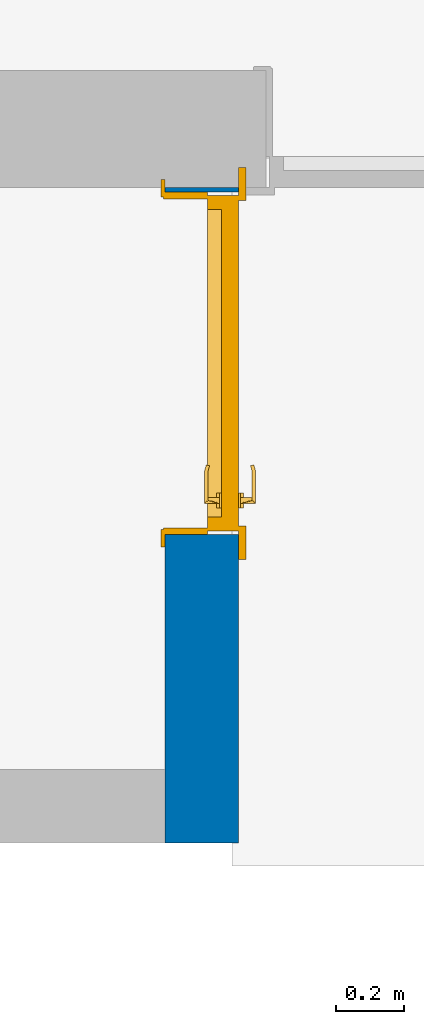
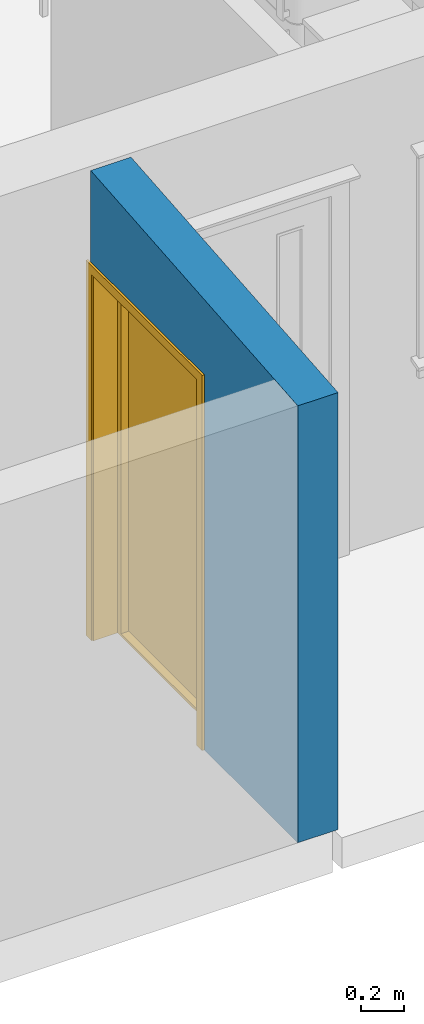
# One storey, part 19 of 65: 1 door, 1 wall, 1 opening.
"""IFC2X3 building model written with IfcOpenShell, lengths in millimetres."""

from ifc_helpers import new_model, entity, si_unit, converted_unit, direction, frame, frame_2d, origin, place, context, subcontext, project, spatial, polyline, rectangle, extrude, clip, bounded_halfspace, faceted_brep, source, transform, mapped, material, material_list, layer, layer_set, layer_usage, type_object, type_shapes, element, fill, save


model = new_model("IFC2X3")

# Units and contexts
model_context = context("Model", 3, precision=0.01, world=origin(), true_north=direction((0.0, 1.0)))
body_context = subcontext(model_context, "Body", "Model", "MODEL_VIEW")
ifc_project = project(units=[si_unit("LENGTHUNIT", "METRE", prefix="MILLI"), si_unit("AREAUNIT", "SQUARE_METRE"), si_unit("VOLUMEUNIT", "CUBIC_METRE"), converted_unit("PLANEANGLEUNIT", "DEGREE", entity("IfcPlaneAngleMeasure", 0.017453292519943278), si_unit("PLANEANGLEUNIT", "RADIAN"), dimensions=[0, 0, 0, 0, 0, 0, 0])], contexts=[model_context])

# Site, building, storey
site_placement = place(None, origin())
site = spatial("IfcSite", under=ifc_project, at=site_placement, Name="Default", CompositionType="ELEMENT")
building_placement = place(site_placement, origin())
building = spatial("IfcBuilding", under=site, at=building_placement, CompositionType="ELEMENT")
storey_placement = place(building_placement, origin())
storey = spatial("IfcBuildingStorey", under=building, at=storey_placement, Name="Et. 1", CompositionType="ELEMENT", Elevation=0.0)

# Wall, opening, door
ifc_material_1 = material(Name="Vegg - Stående Kledning_smal - HVIT")
ifc_layer_1 = layer(ifc_material_1, 19.0)
ifc_material_2 = material(Name="Vegg - Stender - Isolert")
ifc_layer_2 = layer(ifc_material_2, 198.0)
ifc_layer_set = layer_set([ifc_layer_1, ifc_layer_2], Name="Basic Wall:23-Kv(sm)TIG-19_Bod")
ifc_layer_usage = layer_usage(ifc_layer_set, "AXIS2", "NEGATIVE", 108.5)
wall_type = type_object("IfcWallType", Name="Basic Wall:23-Kv(sm)TIG-19_Bod", PredefinedType="STANDARD", material=ifc_layer_set)
wall_placement = place(storey_placement, frame((30699.009586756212, 8408.180957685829, 0.0), z_axis=(0.0, 0.0, 1.0), x_axis=(0.0, -1.0, 0.0)))
wall = element("IfcWallStandardCase", 1, at=wall_placement, inside=storey, type_object=wall_type, material=ifc_layer_usage, Name="Basic Wall:23-Kv(sm)TIG-19_Bod", context=body_context, shape_type="Clipping", body=[
    clip(extrude(rectangle(XDim=1932.0000000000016, YDim=216.9999999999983, at=frame_2d((966.0000000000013, 2.0463630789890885e-12), x_axis=(1.0, 0.0))), origin(), (0.0, 0.0, 1.0), 2657.639611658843), bounded_halfspace(frame((0.0, -108.4999999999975, 2657.6396116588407), z_axis=(0.08715574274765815, 0.0, 0.9961946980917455), x_axis=(0.0, 1.0, 0.0)), False, frame((0.0, -108.4999999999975, 2657.6396116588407)), polyline([(0.0, 0.0), (1715.0, 0.0), (1932.0, 0.0), (1932.0, 217.0), (0.0, 217.0), (0.0, 0.0)]))),
])
opening_placement = place(wall_placement, frame((13.0, -108.50000000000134, 0.0)))
opening = element("IfcOpeningElement", 2, at=opening_placement, cuts=wall, Name="YD Hel omramming:10x21M:1", ObjectType="Opening", context=body_context, shape_type="SweptSolid", body=[
    extrude(rectangle(XDim=1010.000000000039, YDim=2100.0000000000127, at=frame_2d((1050.0000000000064, 505.0000000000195), x_axis=(0.0, -1.0))), frame((0.0, 0.0, 0.0), z_axis=(0.0, 1.0, 0.0), x_axis=(0.0, 0.0, 1.0)), (0.0, 0.0, 1.0), 217.0),
])
ifc_material_3 = material(Name="Karm")
ifc_material_4 = material(Name="Dør - Håndtak")
ifc_material_5 = material(Name="Dør - Dørblad")
ifc_material_6 = material(Name="Dør - Terskel - Eik")
ifc_material_list = material_list([ifc_material_3, ifc_material_4, ifc_material_5, ifc_material_6])
door_style = type_object("IfcDoorStyle", Name="YD Hel omramming:10x21M", ConstructionType="NOTDEFINED", OperationType="SINGLE_SWING_LEFT", ParameterTakesPrecedence=False, Sizeable=False, material=ifc_material_list)
shared_shape = source(origin(), body_context, "Body", "Brep", [
    faceted_brep([(1113.0, 284.5268751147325, 2160.8011105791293), (1113.0, 289.44443697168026, 2179.153701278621), (1113.0, 217.0, 2198.56512966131), (1113.0, 217.0, 2178.894882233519), (-103.0, 284.5268751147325, 2160.8011105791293), (-103.0, 217.0, 2178.894882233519), (-103.0, 217.0, 2198.56512966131), (-103.0, 289.44443697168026, 2179.153701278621)], [[[0, 1, 2, 3]], [[4, 5, 6, 7]], [[1, 0, 4, 7]], [[2, 1, 7, 6]], [[3, 2, 6, 5]], [[0, 3, 5, 4]]]),
    faceted_brep([(25.0, 239.0, 2173.0), (985.0, 239.0, 2173.0), (985.0, 239.0, 2075.0), (25.0, 239.0, 2075.0), (25.0, 217.0, 2173.0), (25.0, 217.0, 2075.0), (985.0, 217.0, 2075.0), (985.0, 217.0, 2173.0)], [[[0, 1, 2, 3]], [[4, 5, 6, 7]], [[1, 0, 4, 7]], [[2, 1, 7, 6]], [[3, 2, 6, 5]], [[0, 3, 5, 4]]]),
    faceted_brep([(-73.0, 239.0, 2179.153701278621), (25.0, 239.0, 2179.153701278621), (25.0, 239.0, 0.0), (-73.0, 239.0, 0.0), (-73.0, 217.0, 2179.153701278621), (25.0, 217.0, 2179.153701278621), (25.0, 217.0, 0.0), (-73.0, 217.0, 0.0)], [[[0, 1, 2, 3]], [[1, 0, 4, 5]], [[2, 1, 5, 6]], [[3, 2, 6, 7]], [[0, 3, 7, 4]], [[4, 7, 6, 5]]]),
    faceted_brep([(985.0, 217.0, 2179.153701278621), (985.0, 217.0, 0.0), (1083.0, 217.0, 0.0), (1083.0, 217.0, 2179.153701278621), (1083.0, 239.0, 2179.153701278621), (985.0, 239.0, 2179.153701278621), (1083.0, 239.0, 0.0), (985.0, 239.0, 0.0)], [[[0, 1, 2, 3]], [[4, 5, 0, 3]], [[6, 4, 3, 2]], [[7, 6, 2, 1]], [[5, 7, 1, 0]], [[5, 4, 6, 7]]]),
    faceted_brep([(910.0, 117.0, 1061.0), (822.4876577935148, 117.0, 1061.0), (804.4308821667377, 121.8382984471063, 1061.0), (807.019072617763, 131.49755670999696, 1061.0), (823.8041827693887, 127.0, 1061.0), (910.0, 127.0, 1061.0), (907.6706285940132, 127.0, 1061.306667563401), (823.8041827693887, 127.0, 1079.0), (910.0, 127.0, 1079.0), (907.6706285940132, 127.0, 1078.6933324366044), (905.499999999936, 127.0, 1077.7942286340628), (903.636038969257, 127.0, 1076.3639610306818), (902.205771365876, 127.0, 1074.500000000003), (901.3066675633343, 127.0, 1072.3293714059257), (901.0, 127.0, 1070.0), (901.3066675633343, 127.0, 1067.6706285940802), (902.205771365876, 127.0, 1065.5000000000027), (903.636038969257, 127.0, 1063.6360389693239), (905.499999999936, 127.0, 1062.2057713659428), (910.0, 117.0, 1079.0), (807.019072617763, 131.49755670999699, 1079.0), (804.4308821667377, 121.83829844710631, 1079.0), (822.4876577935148, 117.0, 1079.0), (919.0, 117.0, 1070.0), (918.7739335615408, 117.0, 1072.0045173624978), (918.1082066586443, 117.0, 1073.9060190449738), (917.0361879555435, 117.0, 1075.6117785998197), (915.6117785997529, 117.0, 1077.0361879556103), (913.9060190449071, 117.0, 1078.1082066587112), (912.0038376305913, 117.0, 1078.7740888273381), (912.0038376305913, 117.0, 1061.2259111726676), (913.9060190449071, 117.0, 1061.8917933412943), (915.6117785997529, 117.0, 1062.9638120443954), (917.0361879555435, 117.0, 1064.3882214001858), (918.1082066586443, 117.0, 1066.0939809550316), (918.7739335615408, 117.0, 1067.9954826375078), (918.6933324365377, 161.0, 1072.3293714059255), (919.0, 161.0, 1070.0), (917.7942286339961, 161.0, 1074.5000000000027), (916.3639610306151, 161.0, 1076.3639610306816), (914.4999999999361, 161.0, 1077.7942286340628), (912.3293714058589, 161.0, 1078.6933324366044), (907.6706285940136, 161.0, 1078.6933324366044), (910.0, 161.0, 1079.0), (905.4999999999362, 161.0, 1077.7942286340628), (903.6360389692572, 161.0, 1076.3639610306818), (902.2057713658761, 161.0, 1074.500000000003), (901.3066675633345, 161.0, 1072.3293714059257), (901.0, 161.0, 1070.0), (901.3066675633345, 161.0, 1067.67062859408), (902.2057713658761, 161.0, 1065.5000000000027), (903.6360389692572, 161.0, 1063.6360389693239), (905.4999999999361, 161.0, 1062.2057713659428), (907.6706285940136, 161.0, 1061.306667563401), (910.0, 161.0, 1061.0), (912.3293714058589, 161.0, 1061.306667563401), (914.4999999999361, 161.0, 1062.2057713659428), (916.363961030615, 161.0, 1063.6360389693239), (918.6933324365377, 161.0, 1067.6706285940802), (917.7942286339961, 161.0, 1065.500000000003), (899.0, 161.0, 1089.0525588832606), (894.443650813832, 161.0, 1085.556349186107), (904.3059810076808, 161.0, 1091.2503681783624), (910.0, 161.0, 1092.0), (915.6940189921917, 161.0, 1091.2503681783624), (921.0, 161.0, 1089.0525588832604), (925.5563491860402, 161.0, 1085.556349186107), (929.0525588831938, 161.0, 1081.0), (931.2503681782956, 161.0, 1075.6940189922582), (932.0, 161.0, 1070.0), (931.2503681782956, 161.0, 1064.3059810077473), (929.0525588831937, 161.0, 1059.0), (925.55634918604, 161.0, 1054.4436508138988), (921.0, 161.0, 1050.947441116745), (915.6940189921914, 161.0, 1048.7496318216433), (910.0, 161.0, 1048.0), (904.3059810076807, 161.0, 1048.7496318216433), (899.0, 161.0, 1050.9474411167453), (894.443650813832, 161.0, 1054.4436508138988), (890.9474411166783, 161.0, 1059.0), (888.7496318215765, 161.0, 1064.3059810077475), (888.0, 161.0, 1070.0), (888.7496318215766, 161.0, 1075.6940189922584), (890.9474411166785, 161.0, 1081.0), (904.3059810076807, 167.0, 1048.7496318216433), (899.0, 167.0, 1050.9474411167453), (894.443650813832, 167.0, 1054.4436508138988), (890.9474411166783, 167.0, 1059.0), (888.7496318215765, 167.0, 1064.3059810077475), (888.0, 167.0, 1070.0), (888.7496318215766, 167.0, 1075.6940189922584), (890.9474411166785, 167.0, 1081.0), (894.443650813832, 167.0, 1085.556349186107), (899.0, 167.0, 1089.0525588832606), (904.3059810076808, 167.0, 1091.2503681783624), (910.0, 167.0, 1092.0), (915.6940189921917, 167.0, 1091.2503681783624), (921.0, 167.0, 1089.0525588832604), (925.5563491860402, 167.0, 1085.556349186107), (929.0525588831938, 167.0, 1081.0), (931.2503681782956, 167.0, 1075.6940189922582), (932.0, 167.0, 1070.0), (931.2503681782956, 167.0, 1064.3059810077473), (929.0525588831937, 167.0, 1059.0), (925.55634918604, 167.0, 1054.4436508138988), (921.0, 167.0, 1050.947441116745), (915.6940189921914, 167.0, 1048.7496318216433), (910.0, 167.0, 1048.0)], [[[0, 1, 2, 3, 4, 5]], [[6, 5, 4, 7, 8, 9, 10, 11, 12, 13, 14, 15, 16, 17, 18]], [[19, 8, 7, 20, 21, 22]], [[23, 24, 25, 26, 27, 28, 29, 19, 22, 1, 0, 30, 31, 32, 33, 34, 35]], [[3, 2, 21, 20]], [[7, 4, 3, 20]], [[1, 22, 21, 2]], [[36, 24, 37]], [[36, 8, 25]], [[38, 39, 8]], [[40, 8, 39]], [[40, 41, 8]], [[38, 8, 36]], [[8, 19, 29]], [[36, 25, 24]], [[24, 23, 37]], [[8, 28, 27]], [[27, 26, 8]], [[8, 26, 25]], [[8, 29, 28]], [[42, 9, 8, 43]], [[44, 10, 9, 42]], [[12, 11, 45, 46]], [[46, 47, 13, 12]], [[44, 45, 11, 10]], [[48, 14, 13, 47]], [[43, 8, 41]], [[49, 15, 14, 48]], [[50, 16, 15, 49]], [[18, 17, 51, 52]], [[52, 53, 6, 18]], [[5, 6, 53, 54]], [[50, 51, 17, 16]], [[5, 30, 0]], [[55, 56, 5]], [[56, 57, 5]], [[58, 5, 59]], [[58, 34, 5]], [[5, 57, 59]], [[37, 35, 58]], [[31, 30, 5]], [[32, 31, 5]], [[34, 33, 5]], [[33, 32, 5]], [[58, 35, 34]], [[37, 23, 35]], [[55, 5, 54]], [[44, 42, 60]], [[61, 44, 60]], [[44, 61, 45]], [[42, 62, 60]], [[62, 42, 43]], [[62, 43, 63]], [[41, 63, 43]], [[63, 41, 64]], [[41, 40, 64]], [[65, 64, 40]], [[39, 65, 40]], [[65, 39, 66]], [[38, 66, 39]], [[67, 66, 38]], [[36, 67, 38]], [[68, 67, 36]], [[68, 36, 37]], [[68, 37, 69]], [[69, 37, 58]], [[69, 58, 70]], [[70, 58, 59]], [[70, 59, 71]], [[72, 71, 59]], [[72, 59, 57]], [[57, 73, 72]], [[57, 56, 73]], [[74, 73, 56]], [[55, 74, 56]], [[55, 75, 74]], [[75, 55, 54]], [[54, 76, 75]], [[53, 76, 54]], [[76, 53, 77]], [[52, 77, 53]], [[78, 77, 52]], [[78, 52, 51]], [[78, 51, 79]], [[79, 51, 50]], [[79, 50, 80]], [[49, 80, 50]], [[81, 80, 49]], [[49, 48, 81]], [[48, 82, 81]], [[82, 48, 47]], [[82, 47, 83]], [[47, 46, 83]], [[45, 83, 46]], [[61, 83, 45]], [[84, 85, 86, 87, 88, 89, 90, 91, 92, 93, 94, 95, 96, 97, 98, 99, 100, 101, 102, 103, 104, 105, 106, 107]], [[100, 68, 69, 101]], [[99, 67, 68, 100]], [[65, 66, 98, 97]], [[99, 98, 66, 67]], [[64, 65, 97, 96]], [[63, 64, 96, 95]], [[94, 62, 63, 95]], [[93, 60, 62, 94]], [[83, 61, 92, 91]], [[93, 92, 61, 60]], [[82, 83, 91, 90]], [[81, 82, 90, 89]], [[88, 80, 81, 89]], [[87, 79, 80, 88]], [[77, 78, 86, 85]], [[87, 86, 78, 79]], [[76, 77, 85, 84]], [[75, 76, 84, 107]], [[106, 74, 75, 107]], [[105, 73, 74, 106]], [[71, 72, 104, 103]], [[105, 104, 72, 73]], [[70, 71, 103, 102]], [[69, 70, 102, 101]]]),
    faceted_brep([(899.0, 152.0, 1019.0525588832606), (894.443650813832, 152.0, 1015.556349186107), (890.9474411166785, 152.0, 1011.0), (888.7496318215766, 152.0, 1005.6940189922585), (888.0, 152.0, 1000.0), (888.7496318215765, 152.0, 994.3059810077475), (890.9474411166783, 152.0, 989.0), (894.443650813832, 152.0, 984.4436508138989), (899.0, 152.0, 980.9474411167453), (904.3059810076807, 152.0, 978.7496318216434), (910.0, 152.0, 978.0), (915.6940189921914, 152.0, 978.7496318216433), (921.0, 152.0, 980.9474411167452), (925.55634918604, 152.0, 984.4436508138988), (929.0525588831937, 152.0, 989.0), (931.2503681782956, 152.0, 994.3059810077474), (932.0, 152.0, 1000.0), (931.2503681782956, 152.0, 1005.6940189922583), (929.0525588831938, 152.0, 1011.0), (925.5563491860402, 152.0, 1015.5563491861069), (921.0, 152.0, 1019.0525588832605), (915.6940189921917, 152.0, 1021.2503681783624), (910.0, 152.0, 1022.0), (904.3059810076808, 152.0, 1021.2503681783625), (915.6940189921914, 167.0, 978.7496318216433), (910.0, 167.0, 978.0), (904.3059810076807, 167.0, 978.7496318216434), (899.0, 167.0, 980.9474411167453), (894.443650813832, 167.0, 984.4436508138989), (890.9474411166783, 167.0, 989.0), (888.7496318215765, 167.0, 994.3059810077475), (888.0, 167.0, 1000.0), (888.7496318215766, 167.0, 1005.6940189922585), (890.9474411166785, 167.0, 1011.0), (894.443650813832, 167.0, 1015.556349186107), (899.0, 167.0, 1019.0525588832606), (904.3059810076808, 167.0, 1021.2503681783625), (910.0, 167.0, 1022.0), (915.6940189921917, 167.0, 1021.2503681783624), (921.0, 167.0, 1019.0525588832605), (925.5563491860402, 167.0, 1015.5563491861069), (929.0525588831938, 167.0, 1011.0), (931.2503681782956, 167.0, 1005.6940189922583), (932.0, 167.0, 1000.0), (931.2503681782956, 167.0, 994.3059810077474), (929.0525588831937, 167.0, 989.0), (925.55634918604, 167.0, 984.4436508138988), (921.0, 167.0, 980.9474411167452)], [[[0, 1, 2, 3, 4, 5, 6, 7, 8, 9, 10, 11, 12, 13, 14, 15, 16, 17, 18, 19, 20, 21, 22, 23]], [[24, 25, 26, 27, 28, 29, 30, 31, 32, 33, 34, 35, 36, 37, 38, 39, 40, 41, 42, 43, 44, 45, 46, 47]], [[42, 17, 16, 43]], [[41, 18, 17, 42]], [[20, 19, 40, 39]], [[41, 40, 19, 18]], [[21, 20, 39, 38]], [[22, 21, 38, 37]], [[36, 23, 22, 37]], [[35, 0, 23, 36]], [[2, 1, 34, 33]], [[35, 34, 1, 0]], [[3, 2, 33, 32]], [[4, 3, 32, 31]], [[30, 5, 4, 31]], [[29, 6, 5, 30]], [[8, 7, 28, 27]], [[29, 28, 7, 6]], [[9, 8, 27, 26]], [[10, 9, 26, 25]], [[24, 11, 10, 25]], [[47, 12, 11, 24]], [[14, 13, 46, 45]], [[46, 13, 12, 47]], [[15, 44, 43, 16]], [[15, 14, 45, 44]]]),
    faceted_brep([(899.0, 223.0, 1089.0525588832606), (907.6706285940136, 223.0, 1078.6933324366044), (905.4999999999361, 223.0, 1077.7942286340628), (894.443650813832, 223.0, 1085.556349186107), (904.3059810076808, 223.0, 1091.2503681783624), (910.0, 223.0, 1079.0), (910.0, 223.0, 1092.0), (912.3293714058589, 223.0, 1078.6933324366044), (915.6940189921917, 223.0, 1091.2503681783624), (914.4999999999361, 223.0, 1077.7942286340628), (921.0, 223.0, 1089.0525588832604), (916.363961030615, 223.0, 1076.3639610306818), (925.5563491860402, 223.0, 1085.556349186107), (917.7942286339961, 223.0, 1074.5000000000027), (929.0525588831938, 223.0, 1081.0), (918.6933324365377, 223.0, 1072.3293714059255), (931.2503681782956, 223.0, 1075.6940189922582), (919.0, 223.0, 1070.0), (932.0, 223.0, 1070.0), (918.6933324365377, 223.0, 1067.6706285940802), (931.2503681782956, 223.0, 1064.3059810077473), (917.7942286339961, 223.0, 1065.500000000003), (929.0525588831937, 223.0, 1059.0), (925.55634918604, 223.0, 1054.4436508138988), (916.363961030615, 223.0, 1063.6360389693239), (921.0, 223.0, 1050.947441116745), (914.4999999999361, 223.0, 1062.2057713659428), (915.6940189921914, 223.0, 1048.7496318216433), (912.3293714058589, 223.0, 1061.306667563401), (910.0, 223.0, 1048.0), (910.0, 223.0, 1061.0), (904.3059810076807, 223.0, 1048.7496318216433), (907.6706285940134, 223.0, 1061.306667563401), (899.0, 223.0, 1050.9474411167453), (905.4999999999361, 223.0, 1062.2057713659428), (894.443650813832, 223.0, 1054.4436508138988), (903.6360389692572, 223.0, 1063.6360389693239), (890.9474411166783, 223.0, 1059.0), (902.2057713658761, 223.0, 1065.5000000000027), (888.7496318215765, 223.0, 1064.3059810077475), (901.3066675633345, 223.0, 1067.67062859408), (888.0, 223.0, 1070.0), (901.0, 223.0, 1070.0), (888.7496318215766, 223.0, 1075.6940189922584), (901.3066675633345, 223.0, 1072.3293714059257), (890.9474411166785, 223.0, 1081.0), (903.6360389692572, 223.0, 1076.3639610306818), (902.2057713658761, 223.0, 1074.500000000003), (910.0, 217.0, 1048.0), (915.6940189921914, 217.0, 1048.7496318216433), (921.0, 217.0, 1050.947441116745), (925.55634918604, 217.0, 1054.4436508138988), (929.0525588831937, 217.0, 1059.0), (931.2503681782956, 217.0, 1064.3059810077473), (932.0, 217.0, 1070.0), (931.2503681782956, 217.0, 1075.6940189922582), (929.0525588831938, 217.0, 1081.0), (925.5563491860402, 217.0, 1085.556349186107), (921.0, 217.0, 1089.0525588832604), (915.6940189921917, 217.0, 1091.2503681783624), (910.0, 217.0, 1092.0), (904.3059810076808, 217.0, 1091.2503681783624), (899.0, 217.0, 1089.0525588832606), (894.443650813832, 217.0, 1085.556349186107), (890.9474411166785, 217.0, 1081.0), (888.7496318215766, 217.0, 1075.6940189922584), (888.0, 217.0, 1070.0), (888.7496318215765, 217.0, 1064.3059810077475), (890.9474411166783, 217.0, 1059.0), (894.443650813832, 217.0, 1054.4436508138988), (899.0, 217.0, 1050.9474411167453), (904.3059810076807, 217.0, 1048.7496318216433), (918.7739335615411, 267.0, 1072.0045173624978), (918.1082066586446, 267.0, 1073.9060190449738), (910.0, 257.0, 1079.0), (912.0038376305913, 267.0, 1078.7740888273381), (910.0, 267.0, 1079.0), (919.0, 267.0, 1070.0), (915.6117785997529, 267.0, 1077.0361879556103), (913.9060190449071, 267.0, 1078.1082066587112), (917.0361879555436, 267.0, 1075.61177859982), (907.6706285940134, 257.0, 1078.6933324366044), (905.499999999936, 257.0, 1077.7942286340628), (903.6360389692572, 257.0, 1076.3639610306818), (902.2057713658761, 257.0, 1074.500000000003), (901.3066675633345, 257.0, 1072.3293714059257), (901.0, 257.0, 1070.0), (901.3066675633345, 257.0, 1067.6706285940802), (902.205771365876, 257.0, 1065.5000000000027), (903.6360389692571, 257.0, 1063.6360389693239), (905.499999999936, 257.0, 1062.2057713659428), (907.6706285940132, 257.0, 1061.306667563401), (910.0, 257.0, 1061.0), (910.0, 267.0, 1061.0), (912.0038376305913, 267.0, 1061.2259111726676), (918.1082066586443, 267.0, 1066.0939809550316), (918.7739335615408, 267.0, 1067.9954826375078), (913.9060190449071, 267.0, 1061.8917933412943), (915.6117785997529, 267.0, 1062.9638120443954), (917.0361879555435, 267.0, 1064.3882214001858), (823.8041827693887, 257.0, 1061.0), (807.019072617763, 252.50244329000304, 1061.0), (804.4308821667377, 262.1617015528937, 1061.0), (822.4876577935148, 267.0, 1061.0), (823.8041827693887, 257.0, 1079.0), (822.4876577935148, 267.0, 1079.0), (804.4308821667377, 262.1617015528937, 1079.0), (807.019072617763, 252.50244329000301, 1079.0)], [[[0, 1, 2]], [[0, 2, 3]], [[0, 4, 1]], [[5, 1, 4]], [[6, 5, 4]], [[5, 6, 7]], [[8, 7, 6]], [[8, 9, 7]], [[9, 8, 10]], [[9, 10, 11]], [[12, 11, 10]], [[11, 12, 13]], [[13, 12, 14]], [[13, 14, 15]], [[15, 14, 16]], [[17, 15, 16]], [[18, 17, 16]], [[19, 17, 18]], [[20, 19, 18]], [[21, 19, 20]], [[22, 21, 20]], [[21, 22, 23]], [[24, 21, 23]], [[23, 25, 24]], [[25, 26, 24]], [[26, 25, 27]], [[26, 27, 28]], [[27, 29, 28]], [[30, 28, 29]], [[29, 31, 30]], [[30, 31, 32]], [[33, 32, 31]], [[32, 33, 34]], [[34, 33, 35]], [[36, 34, 35]], [[37, 36, 35]], [[38, 36, 37]], [[39, 38, 37]], [[38, 39, 40]], [[40, 39, 41]], [[41, 42, 40]], [[41, 43, 42]], [[44, 42, 43]], [[45, 44, 43]], [[46, 45, 3]], [[45, 47, 44]], [[47, 45, 46]], [[46, 3, 2]], [[48, 49, 50, 51, 52, 53, 54, 55, 56, 57, 58, 59, 60, 61, 62, 63, 64, 65, 66, 67, 68, 69, 70, 71]], [[54, 18, 16, 55]], [[55, 16, 14, 56]], [[58, 57, 12, 10]], [[12, 57, 56, 14]], [[59, 58, 10, 8]], [[59, 8, 6, 60]], [[60, 6, 4, 61]], [[61, 4, 0, 62]], [[64, 63, 3, 45]], [[3, 63, 62, 0]], [[65, 64, 45, 43]], [[65, 43, 41, 66]], [[66, 41, 39, 67]], [[67, 39, 37, 68]], [[70, 69, 35, 33]], [[35, 69, 68, 37]], [[71, 70, 33, 31]], [[71, 31, 29, 48]], [[48, 29, 27, 49]], [[49, 27, 25, 50]], [[52, 51, 23, 22]], [[23, 51, 50, 25]], [[53, 52, 22, 20]], [[53, 20, 18, 54]], [[17, 72, 15]], [[73, 74, 15]], [[74, 11, 13]], [[11, 74, 9]], [[74, 7, 9]], [[15, 74, 13]], [[75, 76, 74]], [[72, 73, 15]], [[17, 77, 72]], [[78, 79, 74]], [[74, 80, 78]], [[73, 80, 74]], [[79, 75, 74]], [[5, 74, 81, 1]], [[1, 81, 82, 2]], [[47, 46, 83, 84]], [[85, 44, 47, 84]], [[83, 46, 2, 82]], [[44, 85, 86, 42]], [[7, 74, 5]], [[42, 86, 87, 40]], [[40, 87, 88, 38]], [[34, 36, 89, 90]], [[91, 32, 34, 90]], [[30, 32, 91, 92]], [[89, 36, 38, 88]], [[93, 94, 92]], [[92, 26, 28]], [[92, 24, 26]], [[21, 92, 19]], [[92, 95, 19]], [[21, 24, 92]], [[19, 96, 17]], [[92, 94, 97]], [[92, 97, 98]], [[92, 99, 95]], [[92, 98, 99]], [[95, 96, 19]], [[96, 77, 17]], [[30, 92, 28]], [[92, 100, 101, 102, 103, 93]], [[100, 92, 91, 90, 89, 88, 87, 86, 85, 84, 83, 82, 81, 74, 104]], [[104, 74, 76, 105, 106, 107]], [[106, 102, 101, 107]], [[101, 100, 104, 107]], [[106, 105, 103, 102]], [[73, 72, 77, 96, 95, 99, 98, 97, 94, 93, 103, 105, 76, 75, 79, 78, 80]]]),
    faceted_brep([(904.3059810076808, 232.0, 1021.2503681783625), (910.0, 232.0, 1022.0), (915.6940189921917, 232.0, 1021.2503681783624), (921.0, 232.0, 1019.0525588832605), (925.5563491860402, 232.0, 1015.5563491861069), (929.0525588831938, 232.0, 1011.0), (931.2503681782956, 232.0, 1005.6940189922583), (932.0, 232.0, 1000.0), (931.2503681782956, 232.0, 994.3059810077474), (929.0525588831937, 232.0, 989.0), (925.55634918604, 232.0, 984.4436508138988), (921.0, 232.0, 980.9474411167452), (915.6940189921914, 232.0, 978.7496318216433), (910.0, 232.0, 978.0), (904.3059810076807, 232.0, 978.7496318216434), (899.0, 232.0, 980.9474411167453), (894.443650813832, 232.0, 984.4436508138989), (890.9474411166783, 232.0, 989.0), (888.7496318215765, 232.0, 994.3059810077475), (888.0, 232.0, 1000.0), (888.7496318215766, 232.0, 1005.6940189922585), (890.9474411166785, 232.0, 1011.0), (894.443650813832, 232.0, 1015.556349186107), (899.0, 232.0, 1019.0525588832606), (904.3059810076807, 217.0, 978.7496318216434), (910.0, 217.0, 978.0), (915.6940189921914, 217.0, 978.7496318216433), (921.0, 217.0, 980.9474411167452), (925.55634918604, 217.0, 984.4436508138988), (929.0525588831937, 217.0, 989.0), (931.2503681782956, 217.0, 994.3059810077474), (932.0, 217.0, 1000.0), (931.2503681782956, 217.0, 1005.6940189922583), (929.0525588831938, 217.0, 1011.0), (925.5563491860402, 217.0, 1015.5563491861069), (921.0, 217.0, 1019.0525588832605), (915.6940189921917, 217.0, 1021.2503681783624), (910.0, 217.0, 1022.0), (904.3059810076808, 217.0, 1021.2503681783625), (899.0, 217.0, 1019.0525588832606), (894.443650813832, 217.0, 1015.556349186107), (890.9474411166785, 217.0, 1011.0), (888.7496318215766, 217.0, 1005.6940189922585), (888.0, 217.0, 1000.0), (888.7496318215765, 217.0, 994.3059810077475), (890.9474411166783, 217.0, 989.0), (894.443650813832, 217.0, 984.4436508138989), (899.0, 217.0, 980.9474411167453)], [[[0, 1, 2, 3, 4, 5, 6, 7, 8, 9, 10, 11, 12, 13, 14, 15, 16, 17, 18, 19, 20, 21, 22, 23]], [[24, 25, 26, 27, 28, 29, 30, 31, 32, 33, 34, 35, 36, 37, 38, 39, 40, 41, 42, 43, 44, 45, 46, 47]], [[31, 7, 6, 32]], [[32, 6, 5, 33]], [[35, 34, 4, 3]], [[4, 34, 33, 5]], [[36, 35, 3, 2]], [[36, 2, 1, 37]], [[37, 1, 0, 38]], [[38, 0, 23, 39]], [[41, 40, 22, 21]], [[22, 40, 39, 23]], [[42, 41, 21, 20]], [[42, 20, 19, 43]], [[43, 19, 18, 44]], [[44, 18, 17, 45]], [[47, 46, 16, 15]], [[16, 46, 45, 17]], [[24, 47, 15, 14]], [[24, 14, 13, 25]], [[25, 13, 12, 26]], [[26, 12, 11, 27]], [[29, 28, 10, 9]], [[27, 11, 10, 28]], [[7, 31, 30, 8]], [[29, 9, 8, 30]]]),
    faceted_brep([(958.0, 217.0, 0.0), (1000.0, 217.0, 0.0), (1000.0, 125.0, 0.0), (958.0, 125.0, 0.0), (958.0, 217.0, 2048.0), (52.0, 217.0, 2048.0), (52.0, 217.0, 0.0), (10.0, 217.0, 0.0), (10.0, 217.0, 2090.0), (1000.0, 217.0, 2090.0), (1000.0, 125.0, 2090.0), (10.0, 125.0, 2090.0), (10.0, 125.0, 0.0), (52.0, 125.0, 0.0), (52.0, 125.0, 2048.0), (958.0, 125.0, 2048.0)], [[[0, 1, 2, 3]], [[1, 0, 4, 5, 6, 7, 8, 9]], [[2, 1, 9, 10]], [[3, 2, 10, 11, 12, 13, 14, 15]], [[0, 3, 15, 4]], [[10, 9, 8, 11]], [[4, 15, 14, 5]], [[6, 13, 12, 7]], [[11, 8, 7, 12]], [[5, 14, 13, 6]]]),
    faceted_brep([(52.0, 167.0, 5.0), (958.0, 167.0, 5.0), (958.0, 167.0, 2048.0), (52.0, 167.0, 2048.0), (52.0, 217.0, 5.0), (52.0, 217.0, 2048.0), (958.0, 217.0, 2048.0), (958.0, 217.0, 5.0)], [[[0, 1, 2, 3]], [[4, 5, 6, 7]], [[1, 0, 4, 7]], [[2, 1, 7, 6]], [[3, 2, 6, 5]], [[0, 3, 5, 4]]]),
    faceted_brep([(958.0, 217.0, 5.0), (958.0, 167.0, 5.0), (958.0, 167.0, 15.0), (958.0, 125.0, 15.0), (958.0, 125.0, 0.0), (958.0, 217.0, 0.0), (52.0, 217.0, 5.0), (52.0, 217.0, 0.0), (52.0, 125.0, 0.0), (52.0, 125.0, 15.0), (52.0, 167.0, 15.0), (52.0, 167.0, 5.0)], [[[0, 1, 2, 3, 4, 5]], [[6, 7, 8, 9, 10, 11]], [[1, 0, 6, 11]], [[2, 1, 11, 10]], [[3, 2, 10, 9]], [[4, 3, 9, 8]], [[5, 4, 8, 7]], [[0, 5, 7, 6]]]),
    faceted_brep([(19.828902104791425, 125.0, 0.0), (19.828902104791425, -5.0, 0.0), (14.828902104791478, -5.0, 0.0), (14.828902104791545, -12.0, 0.0), (-37.17109789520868, -12.0, 0.0), (-37.17109789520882, 0.0, 0.0), (0.0, 0.0, 0.0), (0.0, 125.0, 0.0), (19.828902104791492, 125.0, 2080.171097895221), (19.828902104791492, -5.0, 2080.171097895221), (990.171097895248, -5.0, 2080.171097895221), (990.171097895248, -5.0, 0.0), (995.171097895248, -5.0, 0.0), (995.1710978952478, -5.0, 2085.171097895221), (14.828902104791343, -5.0, 2085.1710978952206), (0.0, 125.0, 2100.0), (0.0, 0.0, 2100.0), (1010.0, 125.0, 2100.0), (1010.0, 125.0, 0.0), (990.171097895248, 125.0, 0.0), (990.171097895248, 125.0, 2080.171097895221), (1010.0, 0.0, 2100.0), (1010.0, 0.0, 0.0), (1047.1710978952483, 0.0, 0.0), (1047.1710978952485, -12.0, 0.0), (995.171097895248, -12.0, 0.0), (-37.171097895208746, 0.0, 2137.1710978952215), (1047.1710978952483, 0.0, 2137.1710978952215), (14.82890210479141, -12.0, 2085.171097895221), (995.171097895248, -12.0, 2085.1710978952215), (1047.171097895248, -12.0, 2137.1710978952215), (-37.17109789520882, -12.0, 2137.1710978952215)], [[[0, 1, 2, 3, 4, 5, 6, 7]], [[1, 0, 8, 9]], [[1, 9, 10, 11, 12, 13, 14, 2]], [[15, 7, 6, 16]], [[0, 7, 15, 17, 18, 19, 20, 8]], [[9, 8, 20, 10]], [[17, 15, 16, 21]], [[19, 18, 22, 23, 24, 25, 12, 11]], [[11, 10, 20, 19]], [[18, 17, 21, 22]], [[5, 26, 27, 23, 22, 21, 16, 6]], [[28, 3, 2, 14]], [[4, 3, 28, 29, 25, 24, 30, 31]], [[5, 4, 31, 26]], [[29, 28, 14, 13]], [[27, 26, 31, 30]], [[25, 29, 13, 12]], [[23, 27, 30, 24]]]),
])
type_shapes(door_style, [shared_shape])
door_placement = place(opening_placement, origin())
door = element("IfcDoor", 3, at=door_placement, inside=storey, type_object=door_style, material=ifc_material_list, Name="YD Hel omramming:10x21M", OverallHeight=2100.0000000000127, OverallWidth=1010.000000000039, context=body_context, shape_type="MappedRepresentation", body=[
    mapped(shared_shape, transform((0.0, 0.0, 0.0), scale=1.0)),
])
fill(opening, door)

save(model, "model.ifc")
